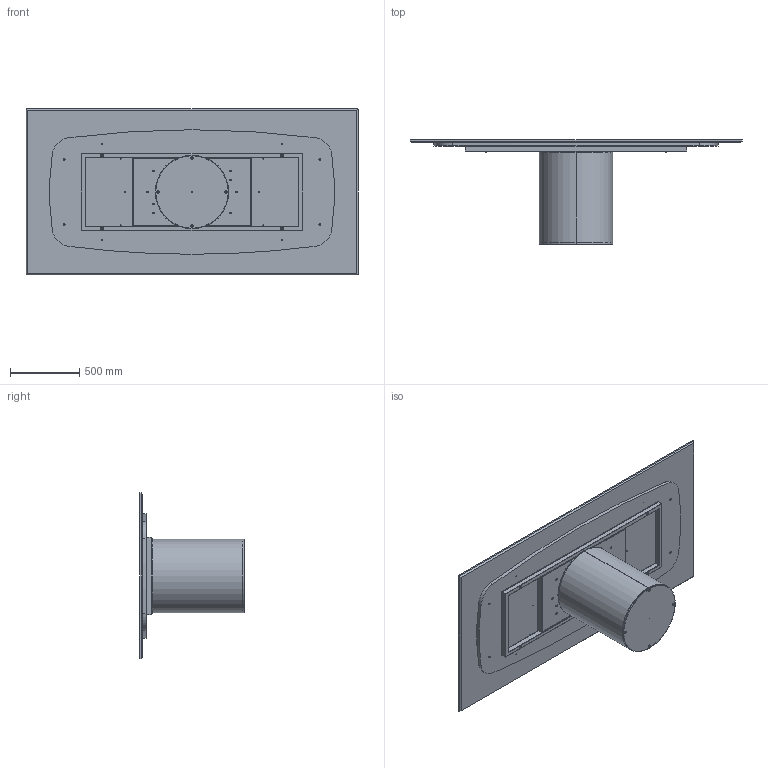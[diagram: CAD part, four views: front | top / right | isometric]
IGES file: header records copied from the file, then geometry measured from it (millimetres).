
Start section: SolidWorks IGES file using analytic representation for surfaces
Global section: file name: Y:\eforma\TECNICO\SOLIDWORKS\E-FORMA\1-TAVOLI\CILINDRO\02 parts\CI23M.IGS; native system: SolidWorks 2022; preprocessor: SolidWorks 2022; author: eforma.tech; date: 240808.092348; units: millimetre
Bounding box: 2400 x 755 x 1200 mm (x, y, z)
Volume: 108942465.2 mm3; surface area: 14560572.7 mm2
Topology: 29 solids, 29 shells, 979 faces, 2279 edges, 1307 vertices
Faces by surface type: revolution 613, plane 366
